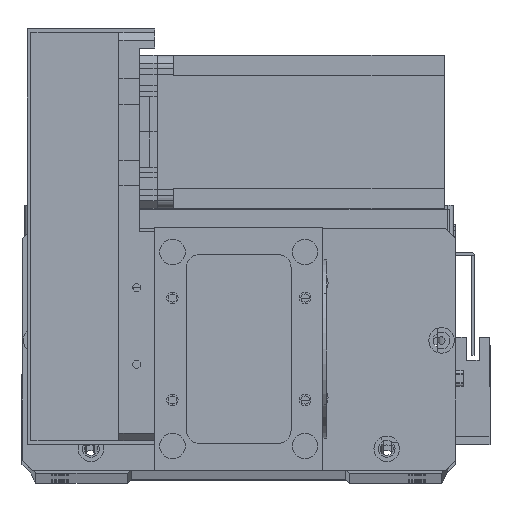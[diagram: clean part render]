
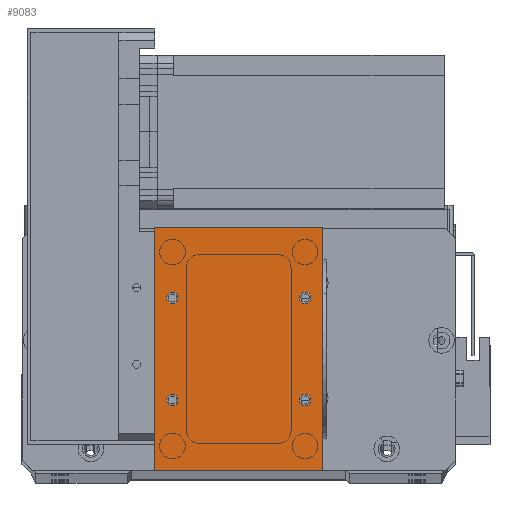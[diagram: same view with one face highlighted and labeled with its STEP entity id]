
A CAD part, top view. The second image highlights one B-rep face of the part: STEP entity #9083.
In plain terms, the highlighted planar face has unit normal (0, 0, 1).
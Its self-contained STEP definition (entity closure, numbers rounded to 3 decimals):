
#274 = ORIENTED_EDGE ( 'NONE', *, *, #13002, .T. ) ;
#942 = DIRECTION ( 'NONE',  ( 0., 0., 1. ) ) ;
#1076 = CARTESIAN_POINT ( 'NONE',  ( 4.75, 67.5, 2. ) ) ;
#1222 = CARTESIAN_POINT ( 'NONE',  ( 66., 0., 2. ) ) ;
#1238 = LINE ( 'NONE', #23374, #27968 ) ;
#1305 = VERTEX_POINT ( 'NONE', #12031 ) ;
#1382 = CARTESIAN_POINT ( 'NONE',  ( 0., 0., 2. ) ) ;
#1746 = DIRECTION ( 'NONE',  ( 1., 0., 0. ) ) ;
#1999 = CARTESIAN_POINT ( 'NONE',  ( 0., 0., 2. ) ) ;
#2156 = EDGE_LOOP ( 'NONE', ( #14194, #3876 ) ) ;
#2191 = AXIS2_PLACEMENT_3D ( 'NONE', #27315, #11852, #29962 ) ;
#2976 = AXIS2_PLACEMENT_3D ( 'NONE', #23853, #8419, #26477 ) ;
#3537 = CIRCLE ( 'NONE', #2976, 2.25 ) ;
#3682 = CARTESIAN_POINT ( 'NONE',  ( 9.25, 67.5, 2. ) ) ;
#3779 = EDGE_CURVE ( 'NONE', #22255, #14232, #22667, .T. ) ;
#3876 = ORIENTED_EDGE ( 'NONE', *, *, #3779, .F. ) ;
#4614 = FACE_BOUND ( 'NONE', #24596, .T. ) ;
#4633 = VECTOR ( 'NONE', #22260, 1000. ) ;
#4649 = VECTOR ( 'NONE', #25156, 1000. ) ;
#4680 = VERTEX_POINT ( 'NONE', #9501 ) ;
#6237 = AXIS2_PLACEMENT_3D ( 'NONE', #16463, #942, #19036 ) ;
#6256 = LINE ( 'NONE', #9334, #4633 ) ;
#6617 = DIRECTION ( 'NONE',  ( -1., 0., 0. ) ) ;
#7179 = CARTESIAN_POINT ( 'NONE',  ( 7., 67.5, 2. ) ) ;
#7264 = VERTEX_POINT ( 'NONE', #30990 ) ;
#8419 = DIRECTION ( 'NONE',  ( 0., 0., 1. ) ) ;
#8587 = EDGE_CURVE ( 'NONE', #31301, #20197, #30575, .T. ) ;
#9083 = ADVANCED_FACE ( 'NONE', ( #17575, #32156, #4614, #24408, #10711 ), #11724, .F. ) ;
#9114 = DIRECTION ( 'NONE',  ( 0., 0., 1. ) ) ;
#9307 = DIRECTION ( 'NONE',  ( 0., 0., 1. ) ) ;
#9334 = CARTESIAN_POINT ( 'NONE',  ( 0., 0., 2. ) ) ;
#9501 = CARTESIAN_POINT ( 'NONE',  ( 66., 95., 2. ) ) ;
#9523 = EDGE_CURVE ( 'NONE', #14232, #22255, #3537, .T. ) ;
#9798 = DIRECTION ( 'NONE',  ( 1., 0., 0. ) ) ;
#10550 = DIRECTION ( 'NONE',  ( -1., 0., 0. ) ) ;
#10711 = FACE_OUTER_BOUND ( 'NONE', #20450, .T. ) ;
#11657 = EDGE_CURVE ( 'NONE', #16853, #31301, #6256, .T. ) ;
#11724 = PLANE ( 'NONE',  #14709 ) ;
#11774 = ORIENTED_EDGE ( 'NONE', *, *, #23464, .F. ) ;
#11852 = DIRECTION ( 'NONE',  ( 0., 0., 1. ) ) ;
#12031 = CARTESIAN_POINT ( 'NONE',  ( 56.75, 27.5, 2. ) ) ;
#12112 = EDGE_LOOP ( 'NONE', ( #31542, #12214 ) ) ;
#12214 = ORIENTED_EDGE ( 'NONE', *, *, #25204, .F. ) ;
#12700 = EDGE_CURVE ( 'NONE', #15205, #1305, #20316, .T. ) ;
#13002 = EDGE_CURVE ( 'NONE', #20197, #4680, #32879, .T. ) ;
#14007 = ORIENTED_EDGE ( 'NONE', *, *, #14135, .F. ) ;
#14135 = EDGE_CURVE ( 'NONE', #29881, #24706, #18622, .T. ) ;
#14194 = ORIENTED_EDGE ( 'NONE', *, *, #9523, .F. ) ;
#14232 = VERTEX_POINT ( 'NONE', #27518 ) ;
#14709 = AXIS2_PLACEMENT_3D ( 'NONE', #1382, #22053, #6617 ) ;
#14959 = ORIENTED_EDGE ( 'NONE', *, *, #32364, .F. ) ;
#15205 = VERTEX_POINT ( 'NONE', #21868 ) ;
#15464 = CARTESIAN_POINT ( 'NONE',  ( 59., 67.5, 2. ) ) ;
#16463 = CARTESIAN_POINT ( 'NONE',  ( 7., 27.5, 2. ) ) ;
#16853 = VERTEX_POINT ( 'NONE', #29397 ) ;
#17263 = DIRECTION ( 'NONE',  ( 0., 0., 1. ) ) ;
#17384 = CARTESIAN_POINT ( 'NONE',  ( 4.75, 27.5, 2. ) ) ;
#17575 = FACE_BOUND ( 'NONE', #23900, .T. ) ;
#18057 = DIRECTION ( 'NONE',  ( 1., 0., 0. ) ) ;
#18622 = CIRCLE ( 'NONE', #18685, 2.25 ) ;
#18685 = AXIS2_PLACEMENT_3D ( 'NONE', #24552, #9114, #27175 ) ;
#18764 = AXIS2_PLACEMENT_3D ( 'NONE', #7179, #25222, #9798 ) ;
#19036 = DIRECTION ( 'NONE',  ( 1., 0., 0. ) ) ;
#19981 = EDGE_CURVE ( 'NONE', #4680, #16853, #1238, .T. ) ;
#20197 = VERTEX_POINT ( 'NONE', #1222 ) ;
#20316 = CIRCLE ( 'NONE', #2191, 2.25 ) ;
#20450 = EDGE_LOOP ( 'NONE', ( #26232, #23520, #274, #32805 ) ) ;
#21868 = CARTESIAN_POINT ( 'NONE',  ( 61.25, 27.5, 2. ) ) ;
#22053 = DIRECTION ( 'NONE',  ( 0., 0., -1. ) ) ;
#22255 = VERTEX_POINT ( 'NONE', #30136 ) ;
#22260 = DIRECTION ( 'NONE',  ( 0., -1., 0. ) ) ;
#22667 = CIRCLE ( 'NONE', #23866, 2.25 ) ;
#22783 = CARTESIAN_POINT ( 'NONE',  ( 0., 0., 2. ) ) ;
#23374 = CARTESIAN_POINT ( 'NONE',  ( 0., 95., 2. ) ) ;
#23464 = EDGE_CURVE ( 'NONE', #1305, #15205, #32988, .T. ) ;
#23520 = ORIENTED_EDGE ( 'NONE', *, *, #8587, .T. ) ;
#23559 = CIRCLE ( 'NONE', #18764, 2.25 ) ;
#23588 = CIRCLE ( 'NONE', #25446, 2.25 ) ;
#23853 = CARTESIAN_POINT ( 'NONE',  ( 59., 67.5, 2. ) ) ;
#23866 = AXIS2_PLACEMENT_3D ( 'NONE', #15464, #33564, #18057 ) ;
#23900 = EDGE_LOOP ( 'NONE', ( #14007, #14959 ) ) ;
#23914 = CIRCLE ( 'NONE', #6237, 2.25 ) ;
#24408 = FACE_BOUND ( 'NONE', #12112, .T. ) ;
#24552 = CARTESIAN_POINT ( 'NONE',  ( 7., 67.5, 2. ) ) ;
#24596 = EDGE_LOOP ( 'NONE', ( #33207, #11774 ) ) ;
#24706 = VERTEX_POINT ( 'NONE', #1076 ) ;
#24744 = CARTESIAN_POINT ( 'NONE',  ( 7., 27.5, 2. ) ) ;
#25156 = DIRECTION ( 'NONE',  ( 1., 0., 0. ) ) ;
#25182 = CARTESIAN_POINT ( 'NONE',  ( 66., 0., 2. ) ) ;
#25204 = EDGE_CURVE ( 'NONE', #33459, #7264, #23914, .T. ) ;
#25222 = DIRECTION ( 'NONE',  ( 0., 0., 1. ) ) ;
#25446 = AXIS2_PLACEMENT_3D ( 'NONE', #24744, #9307, #27359 ) ;
#25978 = VECTOR ( 'NONE', #33033, 1000. ) ;
#26232 = ORIENTED_EDGE ( 'NONE', *, *, #11657, .T. ) ;
#26340 = AXIS2_PLACEMENT_3D ( 'NONE', #32769, #17263, #1746 ) ;
#26477 = DIRECTION ( 'NONE',  ( 1., 0., 0. ) ) ;
#27175 = DIRECTION ( 'NONE',  ( 1., 0., 0. ) ) ;
#27315 = CARTESIAN_POINT ( 'NONE',  ( 59., 27.5, 2. ) ) ;
#27359 = DIRECTION ( 'NONE',  ( 1., 0., 0. ) ) ;
#27518 = CARTESIAN_POINT ( 'NONE',  ( 61.25, 67.5, 2. ) ) ;
#27968 = VECTOR ( 'NONE', #10550, 1000. ) ;
#29397 = CARTESIAN_POINT ( 'NONE',  ( 0., 95., 2. ) ) ;
#29881 = VERTEX_POINT ( 'NONE', #3682 ) ;
#29962 = DIRECTION ( 'NONE',  ( 1., 0., 0. ) ) ;
#30136 = CARTESIAN_POINT ( 'NONE',  ( 56.75, 67.5, 2. ) ) ;
#30575 = LINE ( 'NONE', #1999, #4649 ) ;
#30990 = CARTESIAN_POINT ( 'NONE',  ( 9.25, 27.5, 2. ) ) ;
#31134 = EDGE_CURVE ( 'NONE', #7264, #33459, #23588, .T. ) ;
#31301 = VERTEX_POINT ( 'NONE', #22783 ) ;
#31542 = ORIENTED_EDGE ( 'NONE', *, *, #31134, .F. ) ;
#32156 = FACE_BOUND ( 'NONE', #2156, .T. ) ;
#32364 = EDGE_CURVE ( 'NONE', #24706, #29881, #23559, .T. ) ;
#32769 = CARTESIAN_POINT ( 'NONE',  ( 59., 27.5, 2. ) ) ;
#32805 = ORIENTED_EDGE ( 'NONE', *, *, #19981, .T. ) ;
#32879 = LINE ( 'NONE', #25182, #25978 ) ;
#32988 = CIRCLE ( 'NONE', #26340, 2.25 ) ;
#33033 = DIRECTION ( 'NONE',  ( 0., 1., 0. ) ) ;
#33207 = ORIENTED_EDGE ( 'NONE', *, *, #12700, .F. ) ;
#33459 = VERTEX_POINT ( 'NONE', #17384 ) ;
#33564 = DIRECTION ( 'NONE',  ( 0., 0., 1. ) ) ;
